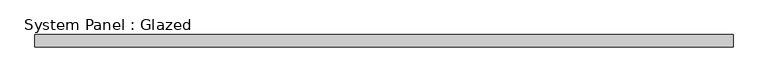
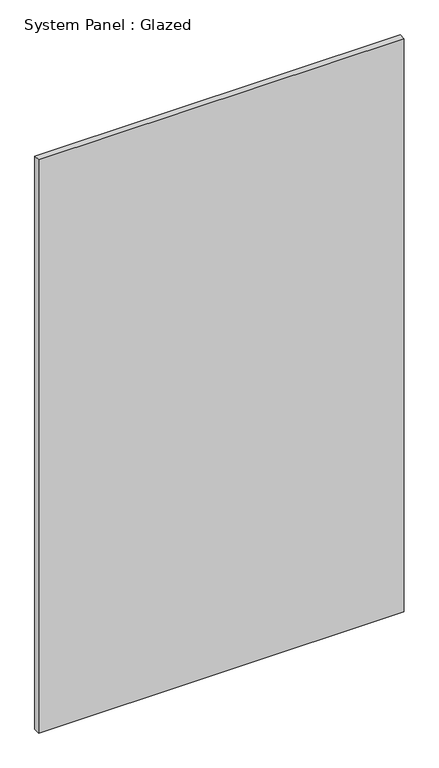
"""IFC4 building model written with IfcOpenShell, lengths in millimetres: plate geometry, System Panel : Glazed."""

from ifc_helpers import new_model, si_unit, origin, origin_with_axes, place, context, project, spatial, polyline, outline, extrude, source, transform, mapped, element, save


def system_panel_glazed_66de9db6(model_context):
    return source(origin(), model_context, "Body", "SweptSolid", [
        extrude(outline(polyline([(716.474875, 19.05), (-716.474875, 19.05), (-716.474875, 44.45), (716.474875, 44.45), (716.474875, 19.05)])), origin_with_axes(), (0.0, 0.0, 1.0), 2374.9),
    ])


if __name__ == "__main__":
    model = new_model("IFC4")
    model_context = context("Model", 3, world=origin())
    ifc_project = project(units=[si_unit("LENGTHUNIT", "METRE", prefix="MILLI")], contexts=[model_context])
    site = spatial("IfcSite", under=ifc_project)
    building = spatial("IfcBuilding", under=site)
    placement = place(None, origin())
    system_panel_glazed_shape = system_panel_glazed_66de9db6(model_context)
    element("IfcPlate", 1, ObjectType="System Panel : Glazed", at=placement, inside=building, context=model_context, shape_type="MappedRepresentation", body=[
        mapped(system_panel_glazed_shape, transform((0.0, 0.0, 0.0), x_axis=(1.0, 0.0, 0.0), y_axis=(0.0, 1.0, 0.0), z_axis=(0.0, 0.0, 1.0))),
    ])
    save(model, "model.ifc")
